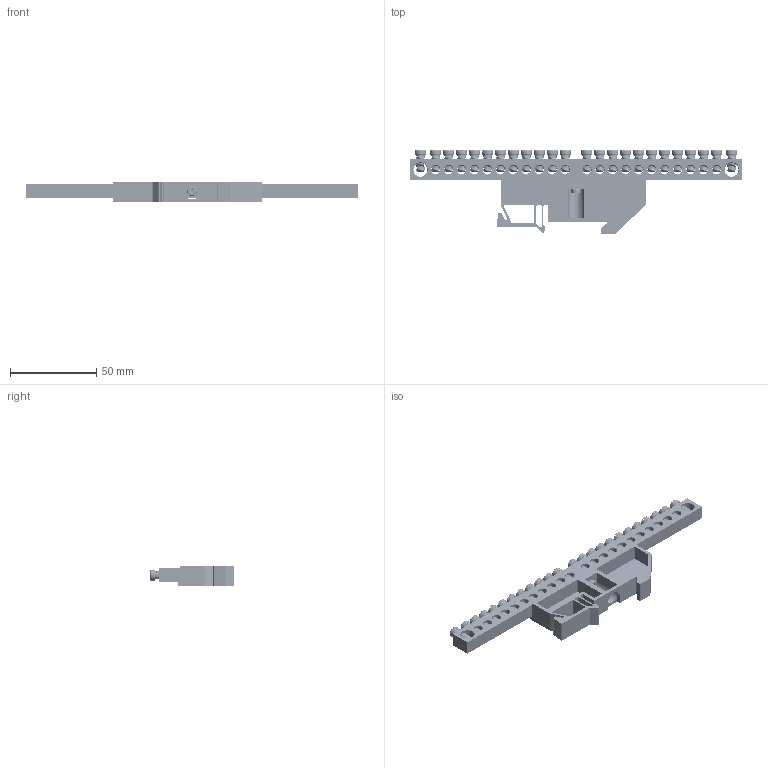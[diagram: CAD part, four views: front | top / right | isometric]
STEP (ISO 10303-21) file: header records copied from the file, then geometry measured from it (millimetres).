
FILE_DESCRIPTION (( 'STEP AP214' ), '1' );
FILE_NAME ('Øèíà íóëåâàÿ ñ DIN èçîëÿòîðîì 8õ12 24.STEP', '2020-02-06T11:38:28', ( '' ), ( '' ), 'SwSTEP 2.0', 'SolidWorks 2018', '' );
FILE_SCHEMA (( 'AUTOMOTIVE_DESIGN' ));
Length unit declared in the file: millimetre
Products named in the file (6): DIN èçîëÿòîð; Âèíò ì4; Øèíà íóëåâàÿ ñ êðåïåæíûì îòâåðñòèåì ïî öåíòðó 8õ12 24-1_1; Âèíò ì5; Øèíà 8õ12 24 1; Øèíà íóëåâàÿ ñ DIN èçîëÿòîðîì 8õ12 24
Assembly tree (28 placements, depth 3):
  Øèíà íóëåâàÿ ñ DIN èçîëÿòîðîì 8õ12 24
    Øèíà íóëåâàÿ ñ êðåïåæíûì îòâåðñòèåì ïî öåíòðó 8õ12 24-1_1
      Øèíà 8õ12 24 1
      Âèíò ì5  x24
    Âèíò ì4
    DIN èçîëÿòîð
Bounding box: 192 x 48.3 x 12 mm (x, y, z)
Volume: 30815.7 mm3; surface area: 29110 mm2
Topology: 27 solids, 27 shells, 2212 faces, 6125 edges, 3934 vertices
Faces by surface type: cylinder 854, plane 751, cone 345, torus 176, bspline 76, sphere 10
Entity records: 21108 total; most frequent: CARTESIAN_POINT 8166, ORIENTED_EDGE 2564, DIRECTION 2527, EDGE_CURVE 1282, AXIS2_PLACEMENT_3D 959, VERTEX_POINT 806, VECTOR 609, LINE 609
